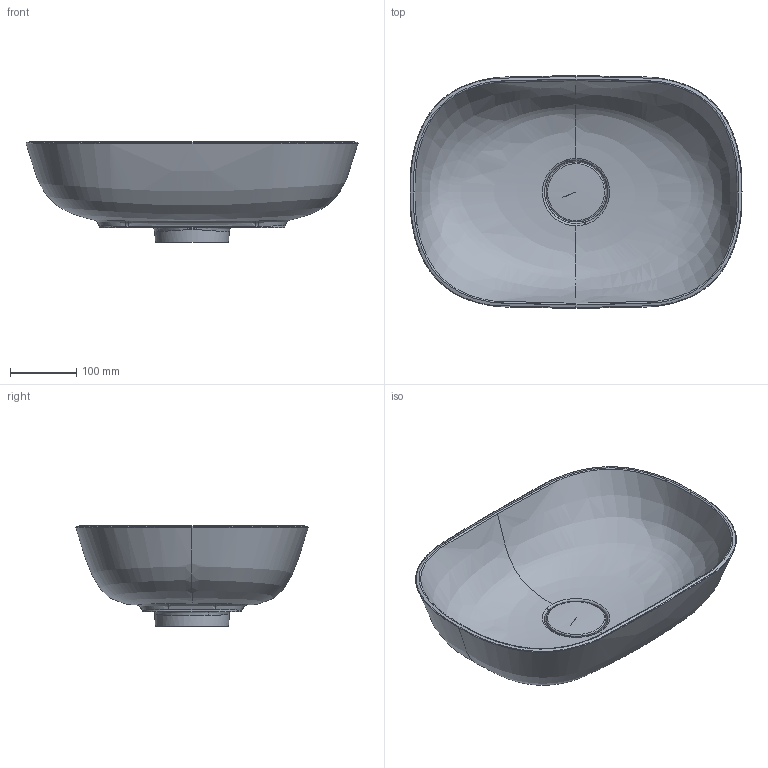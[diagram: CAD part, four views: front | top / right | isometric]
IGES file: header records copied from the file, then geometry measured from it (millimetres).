
Global section: file name: afd48821-1e5a-4596-9095-440ce16c2c2d; native system: unknown; preprocessor: unknown; author: unknown; organization: unknown; date: 20191122.150432; units: millimetre
Bounding box: 500.34 x 350.02 x 151.12 mm (x, y, z)
Volume: 3685481.6 mm3; surface area: 501137.8 mm2
Topology: 2 solids, 2 shells, 104 faces, 285 edges, 180 vertices
Faces by surface type: bspline 104
